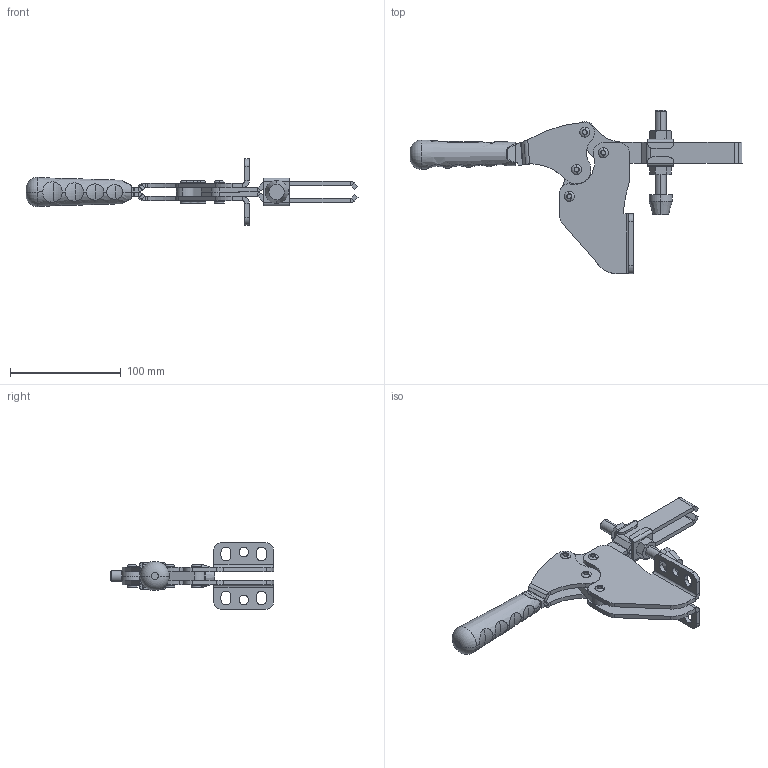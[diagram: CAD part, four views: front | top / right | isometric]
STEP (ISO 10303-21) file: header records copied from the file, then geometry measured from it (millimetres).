
FILE_DESCRIPTION (( 'STEP AP203' ), '1' );
FILE_NAME ('1264_A_MONTAJ.STEP', '2022-04-26T14:11:20', ( '' ), ( '' ), 'SwSTEP 2.0', 'SolidWorks 2020', '' );
FILE_SCHEMA (( 'CONFIG_CONTROL_DESIGN' ));
Length unit declared in the file: millimetre
Products named in the file (14): Aynalama1264_HAREKET_KOLU; 1264_MAFSAL; M10 Somun; 1264_BASKI_KOLU; M10_BASKI_GRUBU^1264_Y_D_MONTAJ; Aynalama1264_BASKI_KOLU; C95_Yeni_Tutamak; Baský M10; 1264 A Gövde; M10 Aský; 6x21_PERﾇﾝN; Aynalama1264 A Gövde; 1264_A_MONTAJ; 1264_HAREKET_KOLU
Assembly tree (18 placements, depth 3):
  1264_A_MONTAJ
    1264_BASKI_KOLU
    1264_HAREKET_KOLU
    Aynalama1264_BASKI_KOLU
    Aynalama1264_HAREKET_KOLU
    1264_MAFSAL
    6x21_PERﾇﾝN  x4
    M10_BASKI_GRUBU^1264_Y_D_MONTAJ
      M10 Aský  x2
      Baský M10
      M10 Somun  x2
    1264 A Gövde
    Aynalama1264 A Gövde
    C95_Yeni_Tutamak
Bounding box: 299.4 x 147.28 x 60 mm (x, y, z)
Volume: 158701.4 mm3; surface area: 88476.2 mm2
Topology: 17 solids, 17 shells, 754 faces, 1884 edges, 1184 vertices
Faces by surface type: plane 431, cylinder 231, cone 42, torus 36, bspline 12, sphere 2
Entity records: 18221 total; most frequent: CARTESIAN_POINT 3706, DIRECTION 2725, ORIENTED_EDGE 2660, EDGE_CURVE 1330, AXIS2_PLACEMENT_3D 945, VERTEX_POINT 838, LINE 835, VECTOR 835
